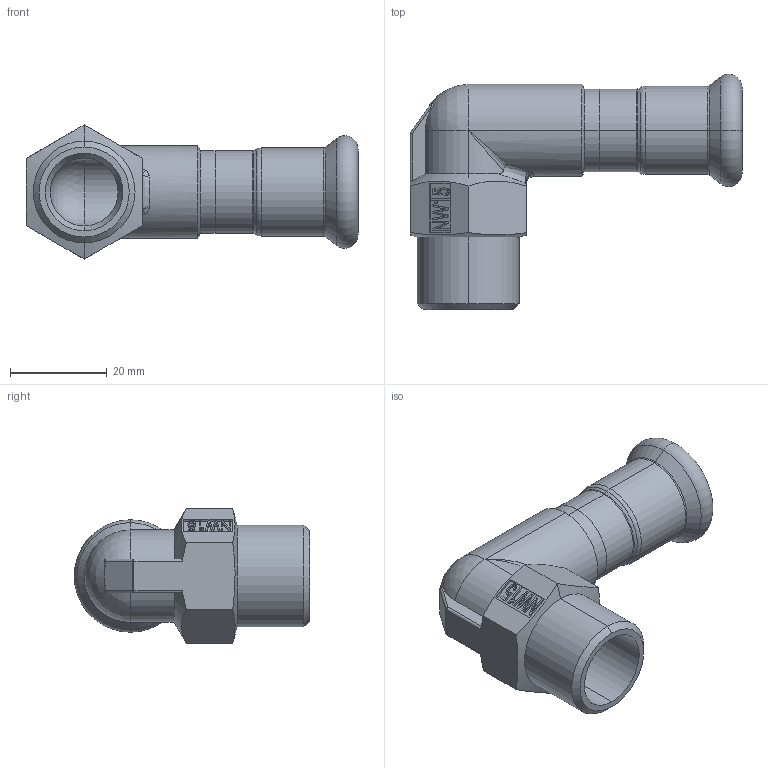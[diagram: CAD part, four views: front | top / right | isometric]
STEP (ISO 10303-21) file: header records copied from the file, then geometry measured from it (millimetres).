
FILE_DESCRIPTION (( 'STEP AP203' ), '1' );
FILE_NAME ('GDA5271.STEP', '2019-01-15T05:30:13', ( '' ), ( '' ), 'SwSTEP 2.0', 'SolidWorks 2015', '' );
FILE_SCHEMA (( 'CONFIG_CONTROL_DESIGN' ));
Length unit declared in the file: millimetre
Products named in the file (3): GDA5271; T-ｉ-01-15; OD15｡ﾁ0.5
Assembly tree (2 placements, depth 2):
  GDA5271
    OD15｡ﾁ0.5
    T-ｉ-01-15
Bounding box: 68.5 x 48.6 x 27.71 mm (x, y, z)
Volume: 13022.9 mm3; surface area: 11105.2 mm2
Topology: 2 solids, 2 shells, 154 faces, 370 edges, 219 vertices
Faces by surface type: plane 60, cylinder 34, cone 19, bspline 19, torus 16, sphere 6
Entity records: 5560 total; most frequent: CARTESIAN_POINT 1859, ORIENTED_EDGE 724, DIRECTION 681, EDGE_CURVE 362, AXIS2_PLACEMENT_3D 244, VERTEX_POINT 218, LINE 193, VECTOR 193
